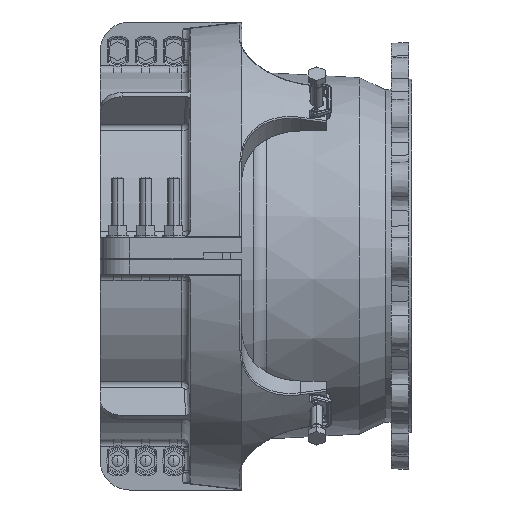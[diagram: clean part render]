
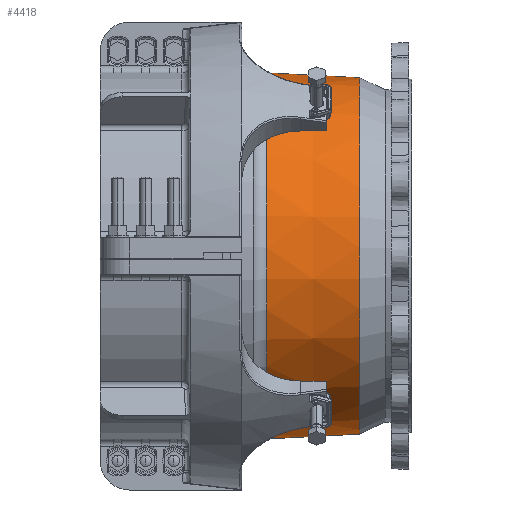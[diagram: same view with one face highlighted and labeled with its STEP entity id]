
A CAD part, left-side view. The second image highlights one B-rep face of the part: STEP entity #4418.
In plain terms, the highlighted conical face has half-angle 3 degrees and reference radius 245.352 mm.
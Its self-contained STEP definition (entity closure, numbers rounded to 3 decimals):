
#1025=CARTESIAN_POINT('',(0.,68.015,0.));
#1026=DIRECTION('',(0.,1.,0.));
#1027=DIRECTION('',(0.831,0.,-0.556));
#1028=AXIS2_PLACEMENT_3D('',#1025,#1026,#1027);
#1030=DIRECTION('',(-0.051,-0.999,0.01));
#1031=VECTOR('',#1030,126.335);
#1032=CARTESIAN_POINT('',(243.88,194.178,-48.511));
#1033=LINE('',#1032,#1031);
#1034=DIRECTION('',(0.044,0.999,-0.029));
#1035=VECTOR('',#1034,126.335);
#1036=CARTESIAN_POINT('',(201.254,68.015,-134.473));
#1037=LINE('',#1036,#1035);
#1053=CARTESIAN_POINT('',(0.,194.178,0.));
#1054=DIRECTION('',(0.,-1.,0.));
#1055=DIRECTION('',(0.981,0.,-0.195));
#1056=AXIS2_PLACEMENT_3D('',#1053,#1054,#1055);
#2950=CARTESIAN_POINT('',(243.88,194.178,-48.511));
#2951=CARTESIAN_POINT('',(237.395,68.015,-47.221));
#2952=VERTEX_POINT('',#2950);
#2953=VERTEX_POINT('',#2951);
#2954=CARTESIAN_POINT('',(201.254,68.015,-134.473));
#2955=CARTESIAN_POINT('',(206.751,194.178,-138.147));
#2956=VERTEX_POINT('',#2954);
#2957=VERTEX_POINT('',#2955);
#4404=CARTESIAN_POINT('',(0.,131.097,0.));
#4405=DIRECTION('',(0.,1.,0.));
#4406=DIRECTION('',(0.981,0.,-0.195));
#4407=AXIS2_PLACEMENT_3D('',#4404,#4405,#4406);
#4408=CONICAL_SURFACE('',#4407,245.352,3.);
#4410=ORIENTED_EDGE('',*,*,#4409,.T.);
#4411=ORIENTED_EDGE('',*,*,#4399,.F.);
#4413=ORIENTED_EDGE('',*,*,#4412,.T.);
#4415=ORIENTED_EDGE('',*,*,#4414,.F.);
#4416=EDGE_LOOP('',(#4410,#4411,#4413,#4415));
#4417=FACE_OUTER_BOUND('',#4416,.F.);
#4418=ADVANCED_FACE('',(#4417),#4408,.T.);
#1029=CIRCLE('',#1028,242.046);
#1057=CIRCLE('',#1056,248.658);
#4399=EDGE_CURVE('',#2956,#2953,#1029,.T.);
#4409=EDGE_CURVE('',#2952,#2953,#1033,.T.);
#4412=EDGE_CURVE('',#2956,#2957,#1037,.T.);
#4414=EDGE_CURVE('',#2952,#2957,#1057,.T.);
